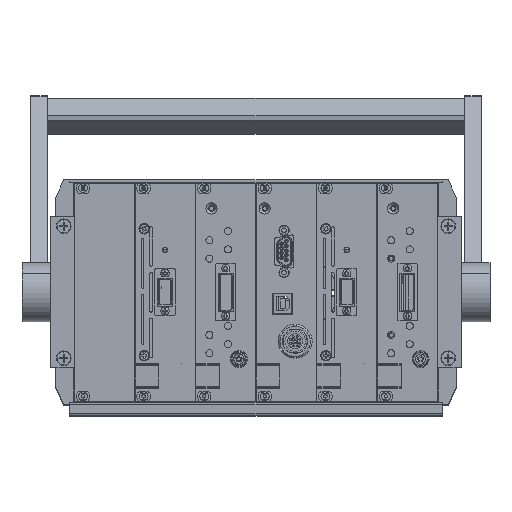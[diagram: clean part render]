
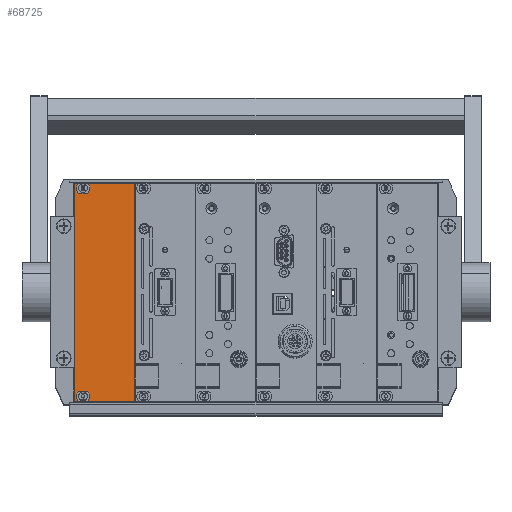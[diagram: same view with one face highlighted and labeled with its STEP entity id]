
A CAD part, top view. The second image highlights one B-rep face of the part: STEP entity #68725.
In plain terms, the highlighted planar face has unit normal (0, 0, 1).
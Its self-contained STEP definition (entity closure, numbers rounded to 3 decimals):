
#146 = EDGE_LOOP ( 'NONE', ( #19498, #40484, #22108, #2279 ) ) ;
#1187 = VERTEX_POINT ( 'NONE', #7278 ) ;
#1958 = EDGE_CURVE ( 'NONE', #64197, #1187, #36948, .T. ) ;
#2279 = ORIENTED_EDGE ( 'NONE', *, *, #40242, .F. ) ;
#2649 = VERTEX_POINT ( 'NONE', #7041 ) ;
#2724 = VERTEX_POINT ( 'NONE', #7773 ) ;
#2972 = DIRECTION ( 'NONE',  ( 1., 0., 0. ) ) ;
#4959 = DIRECTION ( 'NONE',  ( 0., 0., 1. ) ) ;
#6198 = EDGE_CURVE ( 'NONE', #10770, #10786, #37830, .T. ) ;
#7041 = CARTESIAN_POINT ( 'NONE',  ( -191.092, 60.919, 464.95 ) ) ;
#7278 = CARTESIAN_POINT ( 'NONE',  ( -155.592, -68.081, 464.95 ) ) ;
#7773 = CARTESIAN_POINT ( 'NONE',  ( -188.488, 59.569, 464.95 ) ) ;
#7920 = ORIENTED_EDGE ( 'NONE', *, *, #40917, .T. ) ;
#9451 = ORIENTED_EDGE ( 'NONE', *, *, #6198, .F. ) ;
#10338 = CARTESIAN_POINT ( 'NONE',  ( -188.488, 56.269, 464.95 ) ) ;
#10770 = VERTEX_POINT ( 'NONE', #47545 ) ;
#10786 = VERTEX_POINT ( 'NONE', #70904 ) ;
#11354 = LINE ( 'NONE', #51805, #21898 ) ;
#12521 = DIRECTION ( 'NONE',  ( 0., 1., 0. ) ) ;
#13396 = CARTESIAN_POINT ( 'NONE',  ( -183.597, 59.569, 464.95 ) ) ;
#13489 = DIRECTION ( 'NONE',  ( 0., -1., 0. ) ) ;
#13813 = ORIENTED_EDGE ( 'NONE', *, *, #1958, .T. ) ;
#13862 = CARTESIAN_POINT ( 'NONE',  ( -188.488, -63.431, 464.95 ) ) ;
#14837 = VERTEX_POINT ( 'NONE', #13396 ) ;
#14900 = CARTESIAN_POINT ( 'NONE',  ( -183.597, -63.431, 464.95 ) ) ;
#16739 = CARTESIAN_POINT ( 'NONE',  ( -186.042, 57.919, 464.95 ) ) ;
#17122 = CARTESIAN_POINT ( 'NONE',  ( -188.488, 59.569, 464.95 ) ) ;
#18729 = EDGE_CURVE ( 'NONE', #63164, #70557, #71421, .T. ) ;
#19088 = AXIS2_PLACEMENT_3D ( 'NONE', #35252, #29616, #63947 ) ;
#19498 = ORIENTED_EDGE ( 'NONE', *, *, #43838, .F. ) ;
#19611 = CIRCLE ( 'NONE', #67584, 2.95 ) ;
#20680 = EDGE_CURVE ( 'NONE', #70557, #10770, #55868, .T. ) ;
#21898 = VECTOR ( 'NONE', #12521, 1000. ) ;
#22108 = ORIENTED_EDGE ( 'NONE', *, *, #24147, .F. ) ;
#22371 = DIRECTION ( 'NONE',  ( 0., 0., 1. ) ) ;
#22420 = VECTOR ( 'NONE', #32539, 1000. ) ;
#22820 = FACE_BOUND ( 'NONE', #26228, .T. ) ;
#23100 = DIRECTION ( 'NONE',  ( -1., 0., 0. ) ) ;
#23534 = LINE ( 'NONE', #57934, #33237 ) ;
#23593 = ORIENTED_EDGE ( 'NONE', *, *, #18729, .F. ) ;
#24147 = EDGE_CURVE ( 'NONE', #14837, #2724, #69462, .T. ) ;
#24398 = VECTOR ( 'NONE', #56092, 1000. ) ;
#24662 = EDGE_LOOP ( 'NONE', ( #51046, #13813, #59271, #7920 ) ) ;
#25166 = CIRCLE ( 'NONE', #30899, 2.95 ) ;
#26228 = EDGE_LOOP ( 'NONE', ( #46027, #9451, #60921, #23593 ) ) ;
#26958 = LINE ( 'NONE', #53869, #28722 ) ;
#28626 = VECTOR ( 'NONE', #23100, 1000. ) ;
#28722 = VECTOR ( 'NONE', #2972, 1000. ) ;
#29616 = DIRECTION ( 'NONE',  ( 0., 0., 1. ) ) ;
#30620 = DIRECTION ( 'NONE',  ( -1., 0., 0. ) ) ;
#30801 = VECTOR ( 'NONE', #43936, 1000. ) ;
#30899 = AXIS2_PLACEMENT_3D ( 'NONE', #70472, #41599, #69527 ) ;
#32102 = VERTEX_POINT ( 'NONE', #50569 ) ;
#32539 = DIRECTION ( 'NONE',  ( 1., 0., 0. ) ) ;
#33237 = VECTOR ( 'NONE', #13489, 1000. ) ;
#33369 = CARTESIAN_POINT ( 'NONE',  ( -186.042, -65.081, 464.95 ) ) ;
#33621 = AXIS2_PLACEMENT_3D ( 'NONE', #36700, #36470, #41922 ) ;
#35252 = CARTESIAN_POINT ( 'NONE',  ( -186.042, -65.081, 464.95 ) ) ;
#36470 = DIRECTION ( 'NONE',  ( 0., 0., -1. ) ) ;
#36700 = CARTESIAN_POINT ( 'NONE',  ( -191.092, -68.081, 464.95 ) ) ;
#36948 = LINE ( 'NONE', #49144, #30801 ) ;
#37830 = CIRCLE ( 'NONE', #69468, 2.95 ) ;
#39385 = DIRECTION ( 'NONE',  ( 1., 0., 0. ) ) ;
#40242 = EDGE_CURVE ( 'NONE', #47293, #14837, #25166, .T. ) ;
#40484 = ORIENTED_EDGE ( 'NONE', *, *, #56932, .F. ) ;
#40826 = VECTOR ( 'NONE', #30620, 1000. ) ;
#40917 = EDGE_CURVE ( 'NONE', #66047, #2649, #43643, .T. ) ;
#41314 = FACE_OUTER_BOUND ( 'NONE', #24662, .T. ) ;
#41599 = DIRECTION ( 'NONE',  ( 0., 0., 1. ) ) ;
#41922 = DIRECTION ( 'NONE',  ( -1., 0., 0. ) ) ;
#43643 = LINE ( 'NONE', #68054, #28626 ) ;
#43838 = EDGE_CURVE ( 'NONE', #32102, #47293, #70111, .T. ) ;
#43936 = DIRECTION ( 'NONE',  ( 1., 0., 0. ) ) ;
#44753 = DIRECTION ( 'NONE',  ( -1., 0., 0. ) ) ;
#46027 = ORIENTED_EDGE ( 'NONE', *, *, #48831, .F. ) ;
#47293 = VERTEX_POINT ( 'NONE', #72514 ) ;
#47469 = EDGE_CURVE ( 'NONE', #2649, #64197, #23534, .T. ) ;
#47545 = CARTESIAN_POINT ( 'NONE',  ( -188.488, -63.431, 464.95 ) ) ;
#48831 = EDGE_CURVE ( 'NONE', #10786, #63164, #26958, .T. ) ;
#49144 = CARTESIAN_POINT ( 'NONE',  ( -191.092, -68.081, 464.95 ) ) ;
#50569 = CARTESIAN_POINT ( 'NONE',  ( -188.488, 56.269, 464.95 ) ) ;
#51046 = ORIENTED_EDGE ( 'NONE', *, *, #47469, .T. ) ;
#51805 = CARTESIAN_POINT ( 'NONE',  ( -155.592, -68.081, 464.95 ) ) ;
#53754 = CARTESIAN_POINT ( 'NONE',  ( -191.092, -68.081, 464.95 ) ) ;
#53869 = CARTESIAN_POINT ( 'NONE',  ( -188.488, -66.731, 464.95 ) ) ;
#55868 = LINE ( 'NONE', #13862, #40826 ) ;
#56092 = DIRECTION ( 'NONE',  ( -1., 0., 0. ) ) ;
#56932 = EDGE_CURVE ( 'NONE', #2724, #32102, #19611, .T. ) ;
#57166 = CARTESIAN_POINT ( 'NONE',  ( -183.597, -66.731, 464.95 ) ) ;
#57934 = CARTESIAN_POINT ( 'NONE',  ( -191.092, -68.081, 464.95 ) ) ;
#59112 = EDGE_CURVE ( 'NONE', #1187, #66047, #11354, .T. ) ;
#59271 = ORIENTED_EDGE ( 'NONE', *, *, #59112, .T. ) ;
#60921 = ORIENTED_EDGE ( 'NONE', *, *, #20680, .F. ) ;
#63164 = VERTEX_POINT ( 'NONE', #57166 ) ;
#63947 = DIRECTION ( 'NONE',  ( -1., 0., 0. ) ) ;
#64197 = VERTEX_POINT ( 'NONE', #53754 ) ;
#64654 = PLANE ( 'NONE',  #33621 ) ;
#66047 = VERTEX_POINT ( 'NONE', #67877 ) ;
#67584 = AXIS2_PLACEMENT_3D ( 'NONE', #16739, #22371, #39385 ) ;
#67877 = CARTESIAN_POINT ( 'NONE',  ( -155.592, 60.919, 464.95 ) ) ;
#68054 = CARTESIAN_POINT ( 'NONE',  ( -191.092, 60.919, 464.95 ) ) ;
#68725 = ADVANCED_FACE ( 'NONE', ( #22820, #72270, #41314 ), #64654, .F. ) ;
#69462 = LINE ( 'NONE', #17122, #24398 ) ;
#69468 = AXIS2_PLACEMENT_3D ( 'NONE', #33369, #4959, #44753 ) ;
#69527 = DIRECTION ( 'NONE',  ( 1., 0., 0. ) ) ;
#70111 = LINE ( 'NONE', #10338, #22420 ) ;
#70472 = CARTESIAN_POINT ( 'NONE',  ( -186.042, 57.919, 464.95 ) ) ;
#70557 = VERTEX_POINT ( 'NONE', #14900 ) ;
#70904 = CARTESIAN_POINT ( 'NONE',  ( -188.488, -66.731, 464.95 ) ) ;
#71421 = CIRCLE ( 'NONE', #19088, 2.95 ) ;
#72270 = FACE_BOUND ( 'NONE', #146, .T. ) ;
#72514 = CARTESIAN_POINT ( 'NONE',  ( -183.597, 56.269, 464.95 ) ) ;
